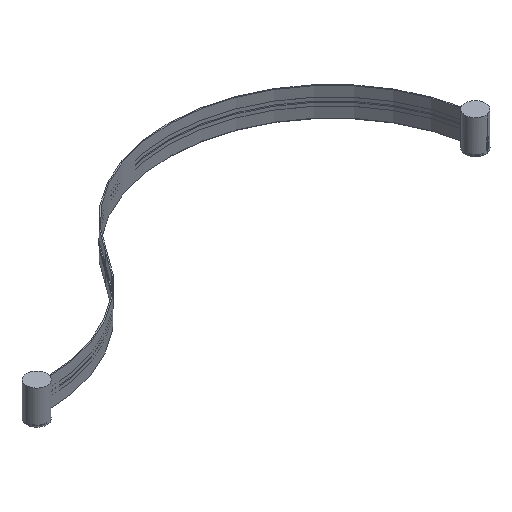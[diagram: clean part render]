
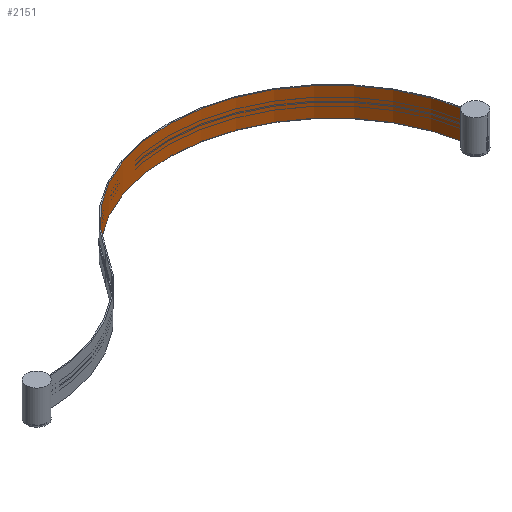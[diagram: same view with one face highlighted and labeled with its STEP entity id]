
A CAD part, isometric view. The second image highlights one B-rep face of the part: STEP entity #2151.
In plain terms, the highlighted cylindrical face has radius 315.448 mm (diameter 630.896 mm), a partial arc.
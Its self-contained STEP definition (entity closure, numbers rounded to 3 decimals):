
#1484=CARTESIAN_POINT('',(556.609,-11.291,4.));
#1485=DIRECTION('',(0.,0.,-1.));
#1486=DIRECTION('',(-0.856,0.517,0.));
#1487=AXIS2_PLACEMENT_3D('',#1484,#1485,#1486);
#1645=DIRECTION('',(0.,0.,-1.));
#1646=VECTOR('',#1645,55.);
#1647=CARTESIAN_POINT('',(286.66,151.911,59.));
#1648=LINE('',#1647,#1646);
#1649=CARTESIAN_POINT('',(556.609,-11.291,59.));
#1650=DIRECTION('',(0.,0.,-1.));
#1651=DIRECTION('',(-0.856,0.517,0.));
#1652=AXIS2_PLACEMENT_3D('',#1649,#1650,#1651);
#1654=DIRECTION('',(0.,0.,-1.));
#1655=VECTOR('',#1654,55.);
#1656=CARTESIAN_POINT('',(867.292,43.333,59.));
#1657=LINE('',#1656,#1655);
#1762=CARTESIAN_POINT('',(286.66,151.911,59.));
#1763=VERTEX_POINT('',#1762);
#1764=CARTESIAN_POINT('',(286.66,151.911,4.));
#1765=VERTEX_POINT('',#1764);
#1782=CARTESIAN_POINT('',(867.292,43.333,59.));
#1783=CARTESIAN_POINT('',(867.292,43.333,4.));
#1784=VERTEX_POINT('',#1782);
#1785=VERTEX_POINT('',#1783);
#2138=CARTESIAN_POINT('',(556.609,-11.291,32.5));
#2139=DIRECTION('',(0.,0.,-1.));
#2140=DIRECTION('',(0.856,-0.517,0.));
#2141=AXIS2_PLACEMENT_3D('',#2138,#2139,#2140);
#2142=CYLINDRICAL_SURFACE('',#2141,315.448);
#2144=ORIENTED_EDGE('',*,*,#2143,.F.);
#2145=ORIENTED_EDGE('',*,*,#1994,.T.);
#2147=ORIENTED_EDGE('',*,*,#2146,.T.);
#2148=ORIENTED_EDGE('',*,*,#1946,.F.);
#2149=EDGE_LOOP('',(#2144,#2145,#2147,#2148));
#2150=FACE_OUTER_BOUND('',#2149,.F.);
#2151=ADVANCED_FACE('',(#2150),#2142,.F.);
#1488=CIRCLE('',#1487,315.448);
#1653=CIRCLE('',#1652,315.448);
#1946=EDGE_CURVE('',#1765,#1785,#1488,.T.);
#1994=EDGE_CURVE('',#1763,#1784,#1653,.T.);
#2143=EDGE_CURVE('',#1763,#1765,#1648,.T.);
#2146=EDGE_CURVE('',#1784,#1785,#1657,.T.);
